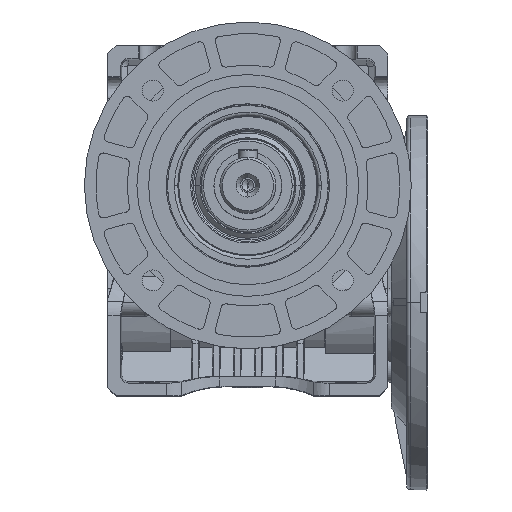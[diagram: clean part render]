
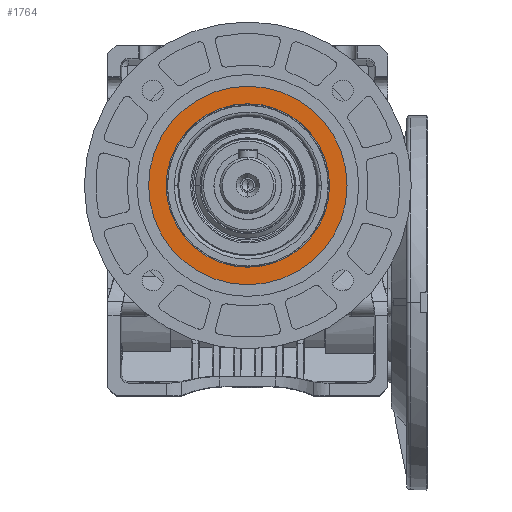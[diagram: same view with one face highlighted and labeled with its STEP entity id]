
A CAD part, top view. The second image highlights one B-rep face of the part: STEP entity #1764.
In plain terms, the highlighted planar face has unit normal (0, 0, 1).
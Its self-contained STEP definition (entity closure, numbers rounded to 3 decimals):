
#1764 = ADVANCED_FACE ( 'NONE', ( #60407, #35560 ), #91422, .F. ) ;
#2175 = VERTEX_POINT ( 'NONE', #16564 ) ;
#3151 = DIRECTION ( 'NONE',  ( 1., 0., 0. ) ) ;
#10012 = AXIS2_PLACEMENT_3D ( 'NONE', #51906, #42766, #29509 ) ;
#12878 = CIRCLE ( 'NONE', #32427, 42.5 ) ;
#16564 = CARTESIAN_POINT ( 'NONE',  ( -35., 0., 96. ) ) ;
#18406 = ORIENTED_EDGE ( 'NONE', *, *, #50478, .F. ) ;
#18575 = AXIS2_PLACEMENT_3D ( 'NONE', #35561, #81331, #80314 ) ;
#21787 = CARTESIAN_POINT ( 'NONE',  ( 0., -42.5, 96. ) ) ;
#24534 = DIRECTION ( 'NONE',  ( 0., 0., -1. ) ) ;
#28326 = ORIENTED_EDGE ( 'NONE', *, *, #67161, .F. ) ;
#29509 = DIRECTION ( 'NONE',  ( 1., 0., 0. ) ) ;
#32427 = AXIS2_PLACEMENT_3D ( 'NONE', #32457, #94445, #48732 ) ;
#32457 = CARTESIAN_POINT ( 'NONE',  ( 0., 0., 96. ) ) ;
#34362 = VERTEX_POINT ( 'NONE', #59377 ) ;
#35560 = FACE_BOUND ( 'NONE', #46751, .T. ) ;
#35561 = CARTESIAN_POINT ( 'NONE',  ( 0., 0., 96. ) ) ;
#42766 = DIRECTION ( 'NONE',  ( 0., 0., -1. ) ) ;
#46751 = EDGE_LOOP ( 'NONE', ( #61154, #48401 ) ) ;
#47222 = AXIS2_PLACEMENT_3D ( 'NONE', #21787, #83779, #76183 ) ;
#48401 = ORIENTED_EDGE ( 'NONE', *, *, #58376, .T. ) ;
#48732 = DIRECTION ( 'NONE',  ( 1., 0., 0. ) ) ;
#50478 = EDGE_CURVE ( 'NONE', #34362, #91234, #98059, .T. ) ;
#51906 = CARTESIAN_POINT ( 'NONE',  ( 0., 0., 96. ) ) ;
#53821 = CIRCLE ( 'NONE', #10012, 35. ) ;
#56009 = CARTESIAN_POINT ( 'NONE',  ( 0., 0., 96. ) ) ;
#58376 = EDGE_CURVE ( 'NONE', #2175, #96773, #95763, .T. ) ;
#59377 = CARTESIAN_POINT ( 'NONE',  ( 42.5, 0., 96. ) ) ;
#60407 = FACE_OUTER_BOUND ( 'NONE', #85085, .T. ) ;
#61154 = ORIENTED_EDGE ( 'NONE', *, *, #78575, .T. ) ;
#67161 = EDGE_CURVE ( 'NONE', #91234, #34362, #12878, .T. ) ;
#74510 = CARTESIAN_POINT ( 'NONE',  ( 35., 0., 96. ) ) ;
#76183 = DIRECTION ( 'NONE',  ( 1., 0., 0. ) ) ;
#78575 = EDGE_CURVE ( 'NONE', #96773, #2175, #53821, .T. ) ;
#80314 = DIRECTION ( 'NONE',  ( 1., 0., 0. ) ) ;
#81331 = DIRECTION ( 'NONE',  ( 0., 0., -1. ) ) ;
#83779 = DIRECTION ( 'NONE',  ( 0., 0., -1. ) ) ;
#85085 = EDGE_LOOP ( 'NONE', ( #18406, #28326 ) ) ;
#90474 = CARTESIAN_POINT ( 'NONE',  ( -42.5, 0., 96. ) ) ;
#91234 = VERTEX_POINT ( 'NONE', #90474 ) ;
#91422 = PLANE ( 'NONE',  #47222 ) ;
#92573 = AXIS2_PLACEMENT_3D ( 'NONE', #56009, #24534, #3151 ) ;
#94445 = DIRECTION ( 'NONE',  ( 0., 0., -1. ) ) ;
#95763 = CIRCLE ( 'NONE', #92573, 35. ) ;
#96773 = VERTEX_POINT ( 'NONE', #74510 ) ;
#98059 = CIRCLE ( 'NONE', #18575, 42.5 ) ;
